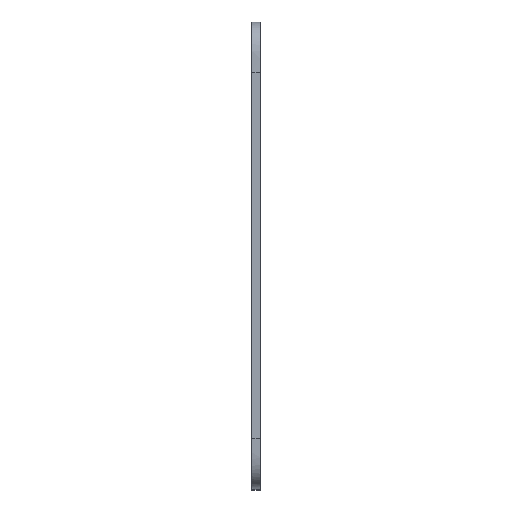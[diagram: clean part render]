
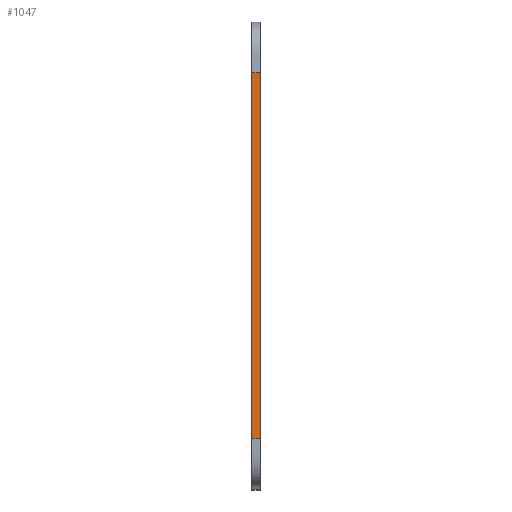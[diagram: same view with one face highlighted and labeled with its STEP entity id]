
A CAD part, top view. The second image highlights one B-rep face of the part: STEP entity #1047.
In plain terms, the highlighted planar face has unit normal (0, 0, 1).
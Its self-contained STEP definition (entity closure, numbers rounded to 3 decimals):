
#75=PLANE('',#1167);
#125=FACE_OUTER_BOUND('',#192,.T.);
#192=EDGE_LOOP('',(#913,#914,#915,#916));
#259=LINE('',#1701,#340);
#289=LINE('',#1949,#370);
#290=LINE('',#1952,#371);
#291=LINE('',#1953,#372);
#340=VECTOR('',#1361,10.);
#370=VECTOR('',#1455,10.);
#371=VECTOR('',#1458,10.);
#372=VECTOR('',#1459,10.);
#500=VERTEX_POINT('',#1683);
#501=VERTEX_POINT('',#1700);
#527=VERTEX_POINT('',#1932);
#528=VERTEX_POINT('',#1951);
#624=EDGE_CURVE('',#500,#501,#259,.T.);
#672=EDGE_CURVE('',#527,#501,#289,.T.);
#673=EDGE_CURVE('',#527,#528,#290,.T.);
#674=EDGE_CURVE('',#528,#500,#291,.T.);
#913=ORIENTED_EDGE('',*,*,#673,.F.);
#914=ORIENTED_EDGE('',*,*,#672,.T.);
#915=ORIENTED_EDGE('',*,*,#624,.F.);
#916=ORIENTED_EDGE('',*,*,#674,.F.);
#1047=ADVANCED_FACE('',(#125),#75,.T.);
#1167=AXIS2_PLACEMENT_3D('',#1950,#1456,#1457);
#1361=DIRECTION('',(0.,1.,0.));
#1455=DIRECTION('',(-1.,0.,0.));
#1456=DIRECTION('center_axis',(0.,0.,1.));
#1457=DIRECTION('ref_axis',(0.,1.,0.));
#1458=DIRECTION('',(0.,-1.,0.));
#1459=DIRECTION('',(-1.,0.,0.));
#1683=CARTESIAN_POINT('',(-153.8,-65.,109.611));
#1700=CARTESIAN_POINT('',(-153.8,65.,109.611));
#1701=CARTESIAN_POINT('',(-153.8,65.,109.611));
#1932=CARTESIAN_POINT('',(-150.8,65.,109.611));
#1949=CARTESIAN_POINT('',(-150.8,65.,109.611));
#1950=CARTESIAN_POINT('Origin',(-150.8,-65.,109.611));
#1951=CARTESIAN_POINT('',(-150.8,-65.,109.611));
#1952=CARTESIAN_POINT('',(-150.8,65.,109.611));
#1953=CARTESIAN_POINT('',(-150.8,-65.,109.611));
